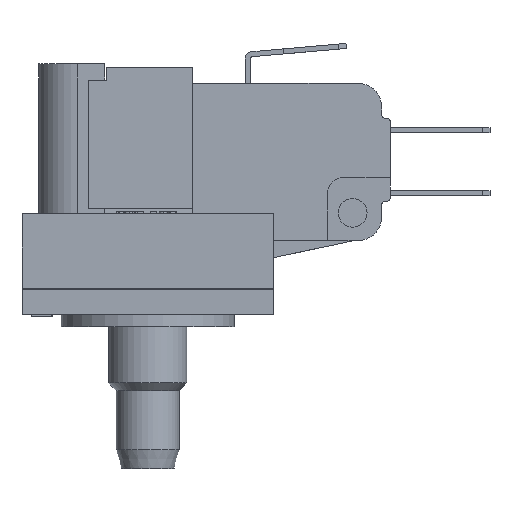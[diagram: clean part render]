
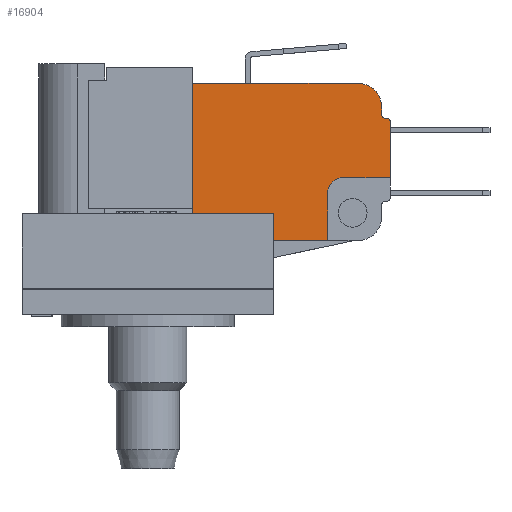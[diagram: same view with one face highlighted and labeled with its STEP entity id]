
A CAD part, left-side view. The second image highlights one B-rep face of the part: STEP entity #16904.
In plain terms, the highlighted planar face has unit normal (-1, 0, 0) as drawn and (0, 0, 1) by its records, which use the part's own axes.
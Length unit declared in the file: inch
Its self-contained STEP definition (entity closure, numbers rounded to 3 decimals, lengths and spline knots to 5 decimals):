
#16175=CARTESIAN_POINT('',(-0.7097,-0.17251,0.1925));
#16176=VERTEX_POINT('',#16175);
#16177=CARTESIAN_POINT('',(-0.7247,-0.15751,0.1925));
#16178=VERTEX_POINT('',#16177);
#16179=CARTESIAN_POINT('',(-0.7097,-0.15751,0.1925));
#16180=DIRECTION('',(0.0,0.0,-1.));
#16181=DIRECTION('',(-0.707,-0.707,0.0));
#16182=AXIS2_PLACEMENT_3D('',#16179,#16180,#16181);
#16183=CIRCLE('',#16182,0.015);
#16184=EDGE_CURVE('',#16176,#16178,#16183,.T.);
#16226=CARTESIAN_POINT('',(-0.7047,-0.17251,0.1925));
#16227=VERTEX_POINT('',#16226);
#16234=CARTESIAN_POINT('',(-0.7097,-0.17251,0.1925));
#16235=DIRECTION('',(1.0,0.0,0.0));
#16236=VECTOR('',#16235,0.005);
#16237=LINE('',#16234,#16236);
#16238=EDGE_CURVE('',#16176,#16227,#16237,.T.);
#16447=CARTESIAN_POINT('',(-0.6897,-0.18751,0.1925));
#16448=VERTEX_POINT('',#16447);
#16455=CARTESIAN_POINT('',(-0.7047,-0.18751,0.1925));
#16456=DIRECTION('',(0.0,0.0,1.));
#16457=DIRECTION('',(0.707,0.707,0.0));
#16458=AXIS2_PLACEMENT_3D('',#16455,#16456,#16457);
#16459=CIRCLE('',#16458,0.015);
#16460=EDGE_CURVE('',#16448,#16227,#16459,.T.);
#16473=CARTESIAN_POINT('',(-0.6897,-0.21871,0.1925));
#16474=VERTEX_POINT('',#16473);
#16481=CARTESIAN_POINT('',(-0.6897,-0.18751,0.1925));
#16482=DIRECTION('',(0.0,-1.0,0.0));
#16483=VECTOR('',#16482,0.0312);
#16484=LINE('',#16481,#16483);
#16485=EDGE_CURVE('',#16448,#16474,#16484,.T.);
#16631=CARTESIAN_POINT('',(-0.5967,-0.31171,0.1925));
#16632=VERTEX_POINT('',#16631);
#16639=CARTESIAN_POINT('',(-0.5967,-0.21871,0.1925));
#16640=DIRECTION('',(0.0,0.0,-1.));
#16641=DIRECTION('',(-0.707,-0.707,0.0));
#16642=AXIS2_PLACEMENT_3D('',#16639,#16640,#16641);
#16643=CIRCLE('',#16642,0.093);
#16644=EDGE_CURVE('',#16632,#16474,#16643,.T.);
#16745=CARTESIAN_POINT('',(-0.4747,0.31329,0.1925));
#16746=VERTEX_POINT('',#16745);
#16753=CARTESIAN_POINT('',(0.3173,0.31329,0.1925));
#16754=VERTEX_POINT('',#16753);
#16755=CARTESIAN_POINT('',(-0.4747,0.31329,0.1925));
#16756=DIRECTION('',(1.0,0.0,0.0));
#16757=VECTOR('',#16756,0.792);
#16758=LINE('',#16755,#16757);
#16759=EDGE_CURVE('',#16746,#16754,#16758,.T.);
#16812=CARTESIAN_POINT('',(-0.15786,0.00153,0.1925));
#16813=DIRECTION('',(0.0,0.0,1.0));
#16814=DIRECTION('',(1.0,0.0,0.0));
#16815=AXIS2_PLACEMENT_3D('',#16812,#16813,#16814);
#16816=PLANE('',#16815);
#16817=ORIENTED_EDGE('',*,*,#16184,.F.);
#16818=ORIENTED_EDGE('',*,*,#16238,.T.);
#16819=ORIENTED_EDGE('',*,*,#16460,.F.);
#16820=ORIENTED_EDGE('',*,*,#16485,.T.);
#16821=ORIENTED_EDGE('',*,*,#16644,.F.);
#16822=CARTESIAN_POINT('',(0.1503,-0.31171,0.1925));
#16823=VERTEX_POINT('',#16822);
#16824=CARTESIAN_POINT('',(0.1503,-0.31171,0.1925));
#16825=DIRECTION('',(-1.0,0.0,0.0));
#16826=VECTOR('',#16825,0.747);
#16827=LINE('',#16824,#16826);
#16828=EDGE_CURVE('',#16823,#16632,#16827,.T.);
#16829=ORIENTED_EDGE('',*,*,#16828,.F.);
#16830=CARTESIAN_POINT('',(0.1503,-0.12171,0.1925));
#16831=VERTEX_POINT('',#16830);
#16832=CARTESIAN_POINT('',(0.1503,-0.31171,0.1925));
#16833=DIRECTION('',(0.0,1.0,0.0));
#16834=VECTOR('',#16833,0.19);
#16835=LINE('',#16832,#16834);
#16836=EDGE_CURVE('',#16823,#16831,#16835,.T.);
#16837=ORIENTED_EDGE('',*,*,#16836,.T.);
#16838=CARTESIAN_POINT('',(0.2103,-0.06171,0.1925));
#16839=VERTEX_POINT('',#16838);
#16840=CARTESIAN_POINT('',(0.2103,-0.12171,0.1925));
#16841=DIRECTION('',(0.0,0.0,-1.0));
#16842=DIRECTION('',(0.0,1.0,0.0));
#16843=AXIS2_PLACEMENT_3D('',#16840,#16841,#16842);
#16844=CIRCLE('',#16843,0.06);
#16845=EDGE_CURVE('',#16831,#16839,#16844,.T.);
#16846=ORIENTED_EDGE('',*,*,#16845,.T.);
#16847=CARTESIAN_POINT('',(0.4103,-0.06171,0.1925));
#16848=VERTEX_POINT('',#16847);
#16849=CARTESIAN_POINT('',(0.2103,-0.06171,0.1925));
#16850=DIRECTION('',(1.0,0.0,0.0));
#16851=VECTOR('',#16850,0.2);
#16852=LINE('',#16849,#16851);
#16853=EDGE_CURVE('',#16839,#16848,#16852,.T.);
#16854=ORIENTED_EDGE('',*,*,#16853,.T.);
#16855=CARTESIAN_POINT('',(0.4103,0.22029,0.1925));
#16856=VERTEX_POINT('',#16855);
#16857=CARTESIAN_POINT('',(0.4103,0.22029,0.1925));
#16858=DIRECTION('',(0.0,-1.0,0.0));
#16859=VECTOR('',#16858,0.282);
#16860=LINE('',#16857,#16859);
#16861=EDGE_CURVE('',#16856,#16848,#16860,.T.);
#16862=ORIENTED_EDGE('',*,*,#16861,.F.);
#16863=CARTESIAN_POINT('',(0.3173,0.22029,0.1925));
#16864=DIRECTION('',(0.0,0.0,-1.));
#16865=DIRECTION('',(0.707,0.707,0.0));
#16866=AXIS2_PLACEMENT_3D('',#16863,#16864,#16865);
#16867=CIRCLE('',#16866,0.093);
#16868=EDGE_CURVE('',#16754,#16856,#16867,.T.);
#16869=ORIENTED_EDGE('',*,*,#16868,.F.);
#16870=ORIENTED_EDGE('',*,*,#16759,.F.);
#16871=CARTESIAN_POINT('',(-0.4747,0.12329,0.1925));
#16872=VERTEX_POINT('',#16871);
#16873=CARTESIAN_POINT('',(-0.4747,0.31329,0.1925));
#16874=DIRECTION('',(0.0,-1.0,0.0));
#16875=VECTOR('',#16874,0.19);
#16876=LINE('',#16873,#16875);
#16877=EDGE_CURVE('',#16746,#16872,#16876,.T.);
#16878=ORIENTED_EDGE('',*,*,#16877,.T.);
#16879=CARTESIAN_POINT('',(-0.5347,0.06329,0.1925));
#16880=VERTEX_POINT('',#16879);
#16881=CARTESIAN_POINT('',(-0.5347,0.12329,0.1925));
#16882=DIRECTION('',(0.0,0.0,-1.0));
#16883=DIRECTION('',(0.0,-1.0,0.0));
#16884=AXIS2_PLACEMENT_3D('',#16881,#16882,#16883);
#16885=CIRCLE('',#16884,0.06);
#16886=EDGE_CURVE('',#16872,#16880,#16885,.T.);
#16887=ORIENTED_EDGE('',*,*,#16886,.T.);
#16888=CARTESIAN_POINT('',(-0.7247,0.06329,0.1925));
#16889=VERTEX_POINT('',#16888);
#16890=CARTESIAN_POINT('',(-0.5347,0.06329,0.1925));
#16891=DIRECTION('',(-1.0,0.0,0.0));
#16892=VECTOR('',#16891,0.19);
#16893=LINE('',#16890,#16892);
#16894=EDGE_CURVE('',#16880,#16889,#16893,.T.);
#16895=ORIENTED_EDGE('',*,*,#16894,.T.);
#16896=CARTESIAN_POINT('',(-0.7247,-0.15751,0.1925));
#16897=DIRECTION('',(0.0,1.0,0.0));
#16898=VECTOR('',#16897,0.2208);
#16899=LINE('',#16896,#16898);
#16900=EDGE_CURVE('',#16178,#16889,#16899,.T.);
#16901=ORIENTED_EDGE('',*,*,#16900,.F.);
#16902=EDGE_LOOP('',(#16817,#16818,#16819,#16820,#16821,#16829,#16837,#16846,#16854,#16862,#16869,#16870,#16878,#16887,#16895,#16901));
#16903=FACE_OUTER_BOUND('',#16902,.T.);
#16904=ADVANCED_FACE('',(#16903),#16816,.T.);
